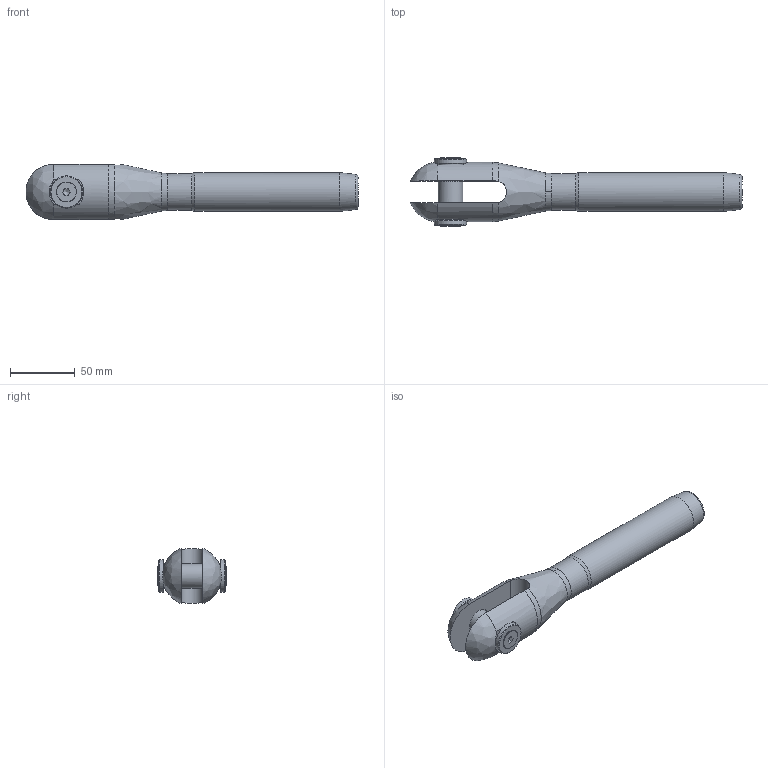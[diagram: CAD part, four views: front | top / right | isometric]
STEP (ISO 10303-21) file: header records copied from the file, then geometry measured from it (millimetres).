
FILE_DESCRIPTION(/* description */ (''),/* implementation_level */ '2;1');
FILE_NAME(/* name */ 'MAC 14_42CrMo4',/* time_stamp */ '2023-05-23T16:55:15+02:00',/* author */ (''),/* organization */ (''),/* preprocessor_version */ 'ST-DEVELOPER v16.5',/* originating_system */ 'Rhino 7.22',/* authorisation */ '');
FILE_SCHEMA (('CONFIG_CONTROL_DESIGN'));
Length unit declared in the file: millimetre
Products named in the file (1): Document
Bounding box: 257.37 x 52.72 x 42.74 mm (x, y, z)
Volume: 203669.6 mm3; surface area: 40749.5 mm2
Topology: 6 solids, 6 shells, 75 faces, 210 edges, 145 vertices
Faces by surface type: plane 29, bspline 24, cylinder 22
Full cylindrical faces by diameter (mm): 6.647 x2, 8 x2, 8.5 x2, 15.24 x2, 19 x1, 20 x2, 25 x2, 28.6 x1, 30 x1
Entity records: 3106 total; most frequent: CARTESIAN_POINT 1759, ORIENTED_EDGE 412, EDGE_CURVE 206, VERTEX_POINT 145, EDGE_LOOP 85, B_SPLINE_CURVE_WITH_KNOTS 84, ADVANCED_FACE 75, FACE_OUTER_BOUND 75
